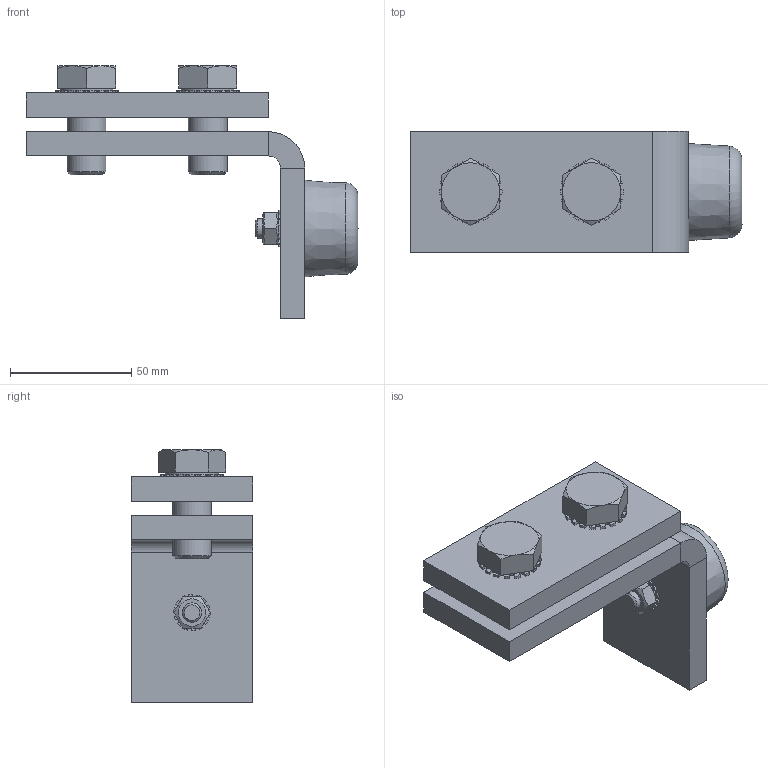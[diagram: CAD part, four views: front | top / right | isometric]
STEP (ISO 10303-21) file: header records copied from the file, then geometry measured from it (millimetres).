
FILE_DESCRIPTION(/* description */ (''),/* implementation_level */ '2;1');
FILE_NAME(/* name */ 'Q:\sge-ma\Produktmanagement-STB\STB\Workspace\stp\010336150.stp',/* time_stamp */ '2015-07-09T15:58:18+02:00',/* author */ ('avschreier'),/* organization */ (''),/* preprocessor_version */ 'ST-DEVELOPER v15.6',/* originating_system */ 'Autodesk Inventor 2015',/* authorisation */ '');
FILE_SCHEMA (('CONFIG_CONTROL_DESIGN'));
Length unit declared in the file: millimetre
Products named in the file (9): 577; 337000128; 337000216; DIN_EN_ISO_4017-M8x30_en; DIN_EN_ISO_4017-M16x35_en; DIN_EN_ISO_4033-M8_en; DIN_6798-A_8,4_en; DIN_6798-A_17_en; 010336150
Bounding box: 137.07 x 50.05 x 104.2 mm (x, y, z)
Volume: 180150.6 mm3; surface area: 51859 mm2
Topology: 10 solids, 10 shells, 424 faces, 1150 edges, 751 vertices
Faces by surface type: cylinder 220, plane 167, cone 35, torus 2
Full cylindrical faces by diameter (mm): 6.647 x1, 7.323 x1, 8 x1, 8.4 x1, 8.5 x1, 11.4 x1, 13.835 x2, 14.917 x2, 16 x2, 16.5 x2, 17 x2, 22 x2
Entity records: 9245 total; most frequent: DIRECTION 1650, CARTESIAN_POINT 1639, ORIENTED_EDGE 1498, EDGE_CURVE 749, AXIS2_PLACEMENT_3D 626, VERTEX_POINT 507, LINE 398, VECTOR 398
